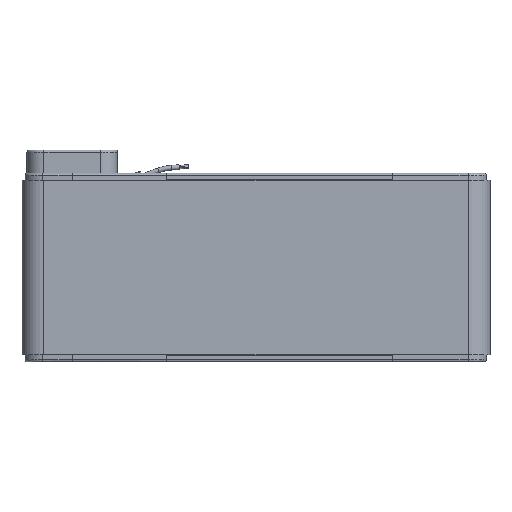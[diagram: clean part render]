
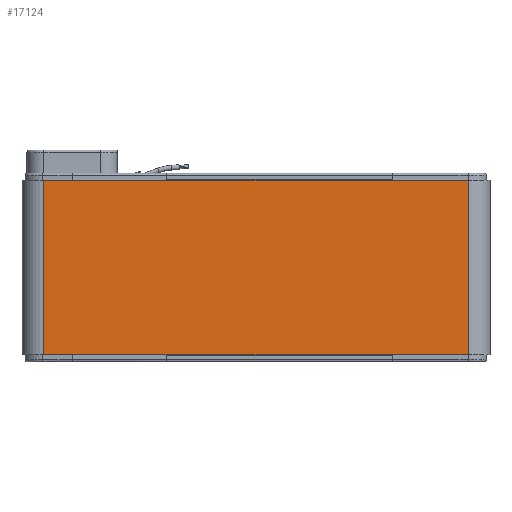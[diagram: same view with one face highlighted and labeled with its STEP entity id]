
A CAD part, left-side view. The second image highlights one B-rep face of the part: STEP entity #17124.
In plain terms, the highlighted planar face has unit normal (-1, 0, 0).
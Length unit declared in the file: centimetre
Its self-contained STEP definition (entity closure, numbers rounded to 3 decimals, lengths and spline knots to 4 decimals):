
#471=PLANE('',#18398);
#1347=FACE_OUTER_BOUND('',#2310,.T.);
#2310=EDGE_LOOP('',(#12215,#12216,#12217,#12218));
#4259=LINE('',#26469,#5600);
#4274=LINE('',#26502,#5615);
#4275=LINE('',#26505,#5616);
#4276=LINE('',#26506,#5617);
#5600=VECTOR('',#21072,1.);
#5615=VECTOR('',#21095,1.);
#5616=VECTOR('',#21098,1.);
#5617=VECTOR('',#21099,1.);
#7117=VERTEX_POINT('',#26463);
#7119=VERTEX_POINT('',#26467);
#7133=VERTEX_POINT('',#26500);
#7134=VERTEX_POINT('',#26504);
#9023=EDGE_CURVE('',#7117,#7119,#4259,.T.);
#9040=EDGE_CURVE('',#7119,#7133,#4274,.T.);
#9041=EDGE_CURVE('',#7133,#7134,#4275,.T.);
#9042=EDGE_CURVE('',#7117,#7134,#4276,.T.);
#12215=ORIENTED_EDGE('',*,*,#9023,.T.);
#12216=ORIENTED_EDGE('',*,*,#9040,.T.);
#12217=ORIENTED_EDGE('',*,*,#9041,.T.);
#12218=ORIENTED_EDGE('',*,*,#9042,.F.);
#17124=ADVANCED_FACE('',(#1347),#471,.T.);
#18398=AXIS2_PLACEMENT_3D('',#26503,#21096,#21097);
#21072=DIRECTION('',(0.,-1.,0.));
#21095=DIRECTION('',(0.,0.,1.));
#21096=DIRECTION('center_axis',(-1.,0.,0.));
#21097=DIRECTION('ref_axis',(0.,0.,
1.));
#21098=DIRECTION('',(0.,1.,0.));
#21099=DIRECTION('',(0.,0.,1.));
#26463=CARTESIAN_POINT('',(-2.33,13.,-9.25));
#26467=CARTESIAN_POINT('',(-2.33,-32.,-9.25));
#26469=CARTESIAN_POINT('',(-2.33,13.,-9.25));
#26500=CARTESIAN_POINT('',(-2.33,-32.,9.25));
#26502=CARTESIAN_POINT('',(-2.33,-32.,0.));
#26503=CARTESIAN_POINT('Origin',(-2.33,13.,0.));
#26504=CARTESIAN_POINT('',(-2.33,13.,9.25));
#26505=CARTESIAN_POINT('',(-2.33,13.,9.25));
#26506=CARTESIAN_POINT('',(-2.33,13.,0.));
